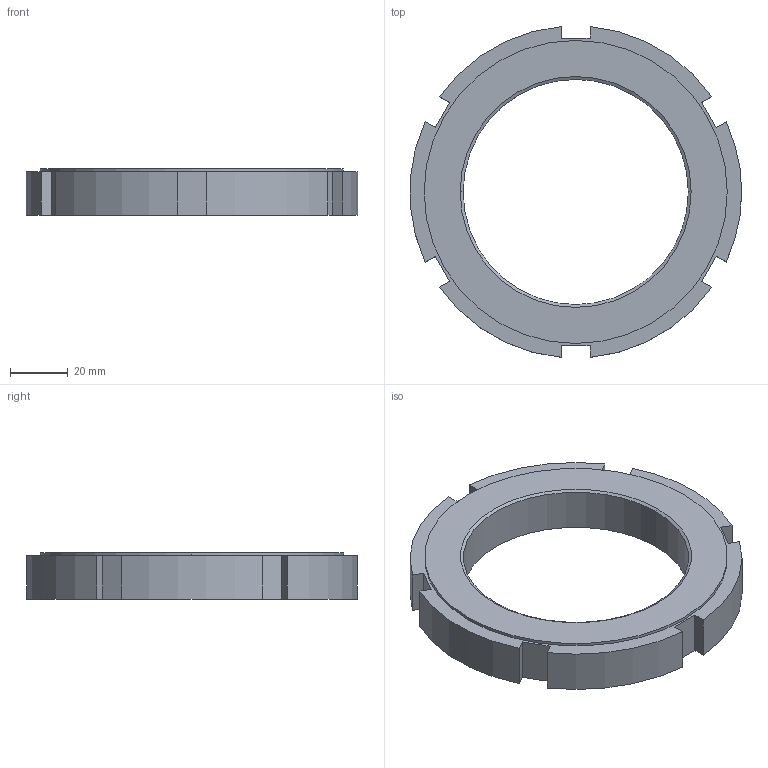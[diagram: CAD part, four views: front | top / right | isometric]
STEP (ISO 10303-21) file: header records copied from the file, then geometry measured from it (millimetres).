
FILE_DESCRIPTION (( 'STEP AP203' ), '1' );
FILE_NAME ('GERMA_Nutmutter_NM-80.STEP', '2023-09-12T13:07:13', ( '' ), ( '' ), 'SwSTEP 2.0', 'SolidWorks 2016', '' );
FILE_SCHEMA (( 'CONFIG_CONTROL_DESIGN' ));
Length unit declared in the file: millimetre
Products named in the file (1): GERMA_Nutmutter_NM-80
Bounding box: 114.78 x 114.56 x 16 mm (x, y, z)
Volume: 84135.2 mm3; surface area: 20902.1 mm2
Topology: 1 solids, 1 shells, 36 faces, 95 edges, 62 vertices
Faces by surface type: plane 21, cylinder 11, cone 4
Entity records: 1194 total; most frequent: DIRECTION 195, CARTESIAN_POINT 194, ORIENTED_EDGE 190, EDGE_CURVE 95, VECTOR 69, LINE 69, AXIS2_PLACEMENT_3D 63, VERTEX_POINT 62
